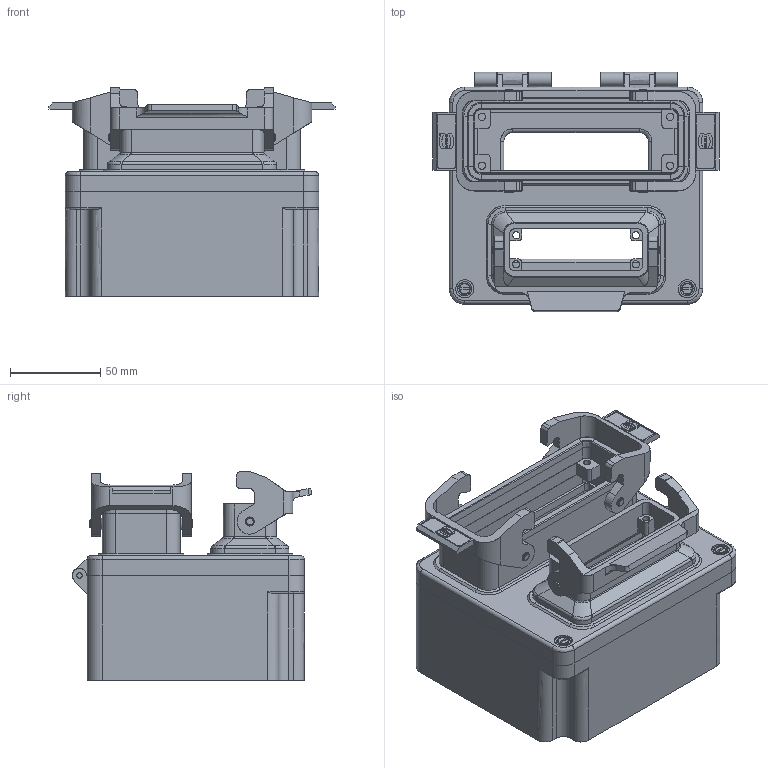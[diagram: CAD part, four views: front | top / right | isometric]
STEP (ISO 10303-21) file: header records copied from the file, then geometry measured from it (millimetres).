
FILE_DESCRIPTION( ( 'STEP AP214' ), '1' );
FILE_NAME( 'C:/Dokumente und Einstellungen/Administrator/Desktop/47 Kabelboxen/G3/16/gr_3_24e_16a-ab.stp', '2006-09-10T19:04:22', ( ' ' ), ( ' ' ), 'XStep 1.0', 'VISICAD', ' ' );
FILE_SCHEMA( ( 'automotive_design' ) );
Length unit declared in the file: millimetre
Products named in the file (1406): 1; 2; 3; 4; 5; 6; 7; 8; 9; 10; 11; 12; 13; 14; 15; 16; 17; 18; 19; 20; 21; 22; 23; 24; 25; 26; 27; 28; 29; 30; 31; 32; 33; 34; 35; 36; 37; 38; 39; 40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
Bounding box: 158.1 x 132.44 x 115.52 mm (x, y, z)
Surface area: 180269.1 mm2 (no closed solid volume)
Topology: 0 solids, 1416 shells, 1416 faces, 7214 edges, 7206 vertices
Faces by surface type: plane 729, bspline 486, cylinder 107, revolution 94
Full cylindrical faces by diameter (mm): 0.76 x2, 0.84 x2, 5.1 x4
Entity records: 150370 total; most frequent: CARTESIAN_POINT 66058, DIRECTION 9866, ORIENTED_EDGE 7206, EDGE_CURVE 7206, VERTEX_POINT 7206, LINE 4404, VECTOR 4404, AXIS2_PLACEMENT_3D 2684
